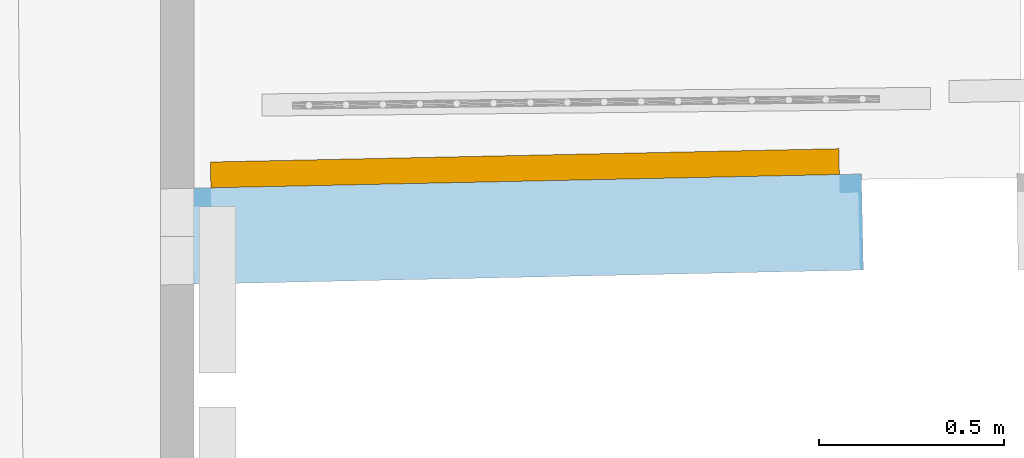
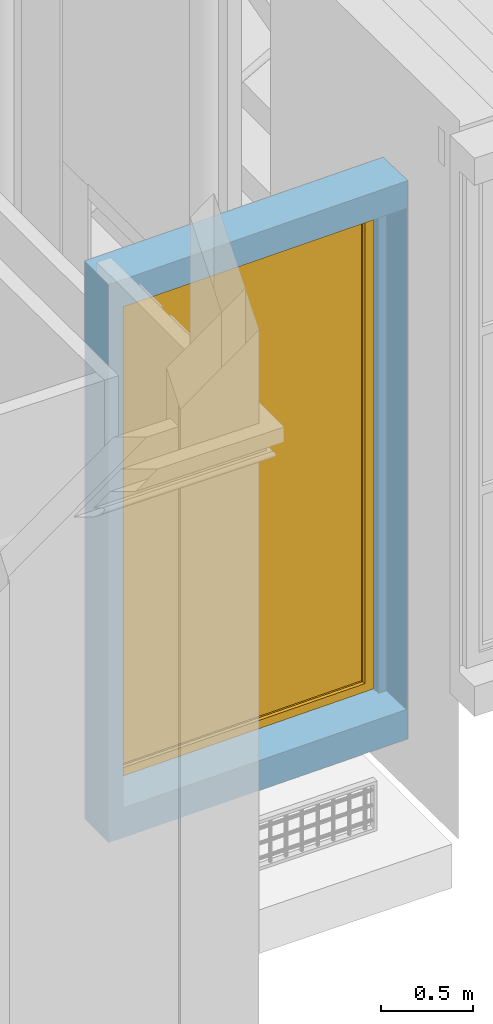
# One storey, part 55 of 97: 1 window, 1 opening, plus 1 element that does not belong to this part.
"""IFC2X3 building model written with IfcOpenShell, lengths in centimetres."""

from ifc_helpers import new_model, entity, si_unit, converted_unit, direction, frame, origin, origin_with_axes, place, context, subcontext, project, spatial, polyline, outline, extrude, faceted_brep, shape, source, transform, mapped, material, material_list, layer, layer_set, layer_usage, type_object, element, fill, save


model = new_model("IFC2X3")

# Units and contexts
model_context = context("Model", 3, precision=0.0001, world=origin(), true_north=direction((0.225632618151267, 0.974212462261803, 0.0)))
body_context = subcontext(model_context, "Body", "Model", "MODEL_VIEW")
footprint_context = subcontext(model_context, "FootPrint", "Model", "MODEL_VIEW")
profile_context = subcontext(model_context, "Profile", "Model", "MODEL_VIEW")
ifc_project = project(units=[si_unit("LENGTHUNIT", "METRE", prefix="CENTI"), si_unit("AREAUNIT", "SQUARE_METRE", prefix="CENTI"), si_unit("VOLUMEUNIT", "CUBIC_METRE", prefix="CENTI"), converted_unit("PLANEANGLEUNIT", "DEGREE", entity("IfcRatioMeasure", 0.0174532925), si_unit("PLANEANGLEUNIT", "RADIAN"), dimensions=[0, 0, 0, 0, 0, 0, 0])], contexts=[model_context])

# Site, building, storey
site_placement = place(None, origin_with_axes())
site = spatial("IfcSite", under=ifc_project, at=site_placement, Name="Default Site", CompositionType="ELEMENT")
building_placement = place(site_placement, origin_with_axes())
building = spatial("IfcBuilding", under=site, at=building_placement, Name="Default Building", CompositionType="ELEMENT")
storey_placement = place(building_placement, origin_with_axes())
storey = spatial("IfcBuildingStorey", under=building, at=storey_placement, Name="Rez-de-chaussée", CompositionType="ELEMENT", Elevation=0.0)

# Wall, opening, window
ifc_material_1 = material(Name="<aucun>")
ifc_layer = layer(ifc_material_1, 26.0)
ifc_layer_set = layer_set([ifc_layer], Name="default")
ifc_layer_usage = layer_usage(ifc_layer_set, "AXIS2", "POSITIVE", -13.0)
wall_type = type_object("IfcWallType", Name="default 260", PredefinedType="NOTDEFINED", material=ifc_layer_set)
wall_placement = place(storey_placement, frame((893.110482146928, -889.643335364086, 100.0), z_axis=(0.0, 0.0, 1.0), x_axis=(0.999775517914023, 0.0211875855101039, 0.0)))
wall = element("IfcWallStandardCase", 1, at=wall_placement, inside=storey, type_object=wall_type, material=ifc_layer_usage, Name="Enveloppe 531153", context=body_context, shape_type="SweptSolid", body=[
    extrude(outline(polyline([(-8.85924768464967, -12.9999999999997), (181.57111662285, -12.9999999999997), (181.571116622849, 13.0000000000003), (-8.3135869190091, 13.0000000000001), (-8.85924768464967, -12.9999999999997)])), frame((0.0, 0.0, -8.88178419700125e-14), z_axis=(0.0, 0.0, 1.0), x_axis=(1.0, 0.0, 0.0)), (0.0, 0.0, 1.0), 370.795358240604),
])
opening_placement = place(wall_placement, frame((0.321148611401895, 0.0, 19.7999999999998), z_axis=(0.0, 0.0, 1.0), x_axis=(-1.0, -1.196959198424e-15, 0.0)))
cartesian_point_1 = entity("IfcCartesianPoint", [0.0, -1.77635683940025e-13, 333.0])
cartesian_point_2 = entity("IfcCartesianPoint", [-180.275340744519, -13.0000000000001])
opening = element("IfcOpeningElement", 2, at=opening_placement, cuts=wall, Name="4294966539_11", ObjectType="Opening", shapes=[
    shape(body_context, "Body", "Brep", [faceted_brep([(-4.99996269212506, -32.9999921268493, 332.999987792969), (-175.275346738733, -32.9999919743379, 332.999987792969), (-175.275346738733, -32.9999919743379, -4.57763669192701e-06), (-4.99996269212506, -32.9999921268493, -4.57763669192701e-06), (4.3093168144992e-05, 33.0000416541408, -4.57763669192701e-06), (-180.2753357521, 33.000041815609, -4.57763669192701e-06), (-180.2753357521, 33.000041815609, 332.999987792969), (4.3093168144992e-05, 33.0000416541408, 332.999987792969), (-4.99996266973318, -8.00000513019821, -4.57763669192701e-06), (-4.99996266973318, -8.00000513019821, 332.999987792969), (-5.00003942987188, -8.00000513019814, 332.999987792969), (-5.00003942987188, -8.00000513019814, -4.57763669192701e-06), (-4.20305417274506e-05, -8.00000513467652, -4.57763669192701e-06), (-4.20305417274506e-05, -8.00000513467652, 332.999987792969), (-4.20305417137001e-05, -7.99998978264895, 332.999987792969), (-4.20305417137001e-05, -7.99998978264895, -4.57763669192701e-06), (-4.19938189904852e-05, 33.0000416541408, -4.57763669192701e-06), (-4.19938189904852e-05, 33.0000416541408, 332.999987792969), (-175.275346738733, -33.0000178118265, -4.57763669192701e-06), (-175.275328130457, -8.00003283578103, -4.57763669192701e-06), (-180.275323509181, -7.99995283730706, -4.57763669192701e-06), (-180.2753357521, 32.9999852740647, -4.57763669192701e-06), (-175.275346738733, -33.0000178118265, 332.999987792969), (-175.275346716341, -8.00003283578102, 332.999987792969), (-175.275346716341, -8.00003283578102, -4.57763669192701e-06), (-175.275328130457, -8.00003283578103, 332.999987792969), (-180.275323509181, -8.00003283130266, 332.999987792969), (-180.275323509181, -8.00003283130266, -4.57763669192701e-06), (-180.275323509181, -7.99995283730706, 332.999987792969), (-180.275323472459, 32.9999852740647, 332.999987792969), (-180.275323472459, 32.9999852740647, -4.57763669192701e-06), (-180.2753357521, 32.9999852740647, 332.999987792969)], [[[0, 1, 2, 3]], [[4, 5, 6, 7]], [[0, 3, 8, 9]], [[10, 11, 12, 13]], [[14, 15, 16, 17]], [[3, 18, 19, 20, 21, 4, 15, 11]], [[18, 22, 23, 24]], [[19, 25, 26, 27]], [[20, 28, 29, 30]], [[10, 14, 7, 31, 28, 25, 22, 0]]])]),
    shape(profile_context, "Profile", "GeometricCurveSet", [entity("IfcGeometricCurveSet", [entity("IfcPolyline", [cartesian_point_1, entity("IfcCartesianPoint", [0.0, -1.77635683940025e-13, 0.0]), entity("IfcCartesianPoint", [-180.275340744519, 0.0, 0.0]), entity("IfcCartesianPoint", [-180.275340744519, 0.0, 333.0]), cartesian_point_1])])]),
    shape(footprint_context, "FootPrint", "GeometricCurveSet", [entity("IfcGeometricCurveSet", [entity("IfcPolyline", [cartesian_point_2, entity("IfcCartesianPoint", [0.0, -13.0000000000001]), entity("IfcCartesianPoint", [0.0, 12.9999999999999]), entity("IfcCartesianPoint", [-180.275340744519, 12.9999999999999]), cartesian_point_2])])]),
])
ifc_material_2 = material(Name="Transparent")
ifc_material_3 = material(Name="Sapin blanc")
ifc_material_list = material_list([ifc_material_2, ifc_material_3])
window_style = type_object("IfcWindowStyle", Name="F[R] VV", ConstructionType="NOTDEFINED", OperationType="SINGLE_PANEL", ParameterTakesPrecedence=True, Sizeable=False, material=ifc_material_list)
shared_shape = source(origin_with_axes(), body_context, "Body", "Brep", [
    faceted_brep([(-79.6376705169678, 327.500009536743, -7.00000002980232), (-78.6376709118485, 326.500010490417, -6.00000042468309), (-78.6376709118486, 6.49999976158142, -6.00000042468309), (-79.6376705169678, 5.49999997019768, -7.00000002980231), (-78.6376714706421, 326.500010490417, -5.99999986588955), (-78.6376714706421, 326.500010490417, -0.999999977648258), (-78.6376714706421, 6.49999976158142, -0.999999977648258), (-78.6376714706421, 6.49999976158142, -5.99999986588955), (-79.6376709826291, 327.500009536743, -4.65661287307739e-07), (-79.6376709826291, 5.49999997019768, -4.65661295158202e-07), (-78.6376714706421, 6.49999976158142, -0.999999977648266), (-79.6376705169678, 327.500009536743, 0.0), (-85.1376712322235, 332.999992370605, 0.0), (-85.1376712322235, 0.0, 0.0), (-79.6376705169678, 5.49999997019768, 0.0), (-85.1376712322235, 332.999992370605, -7.00000002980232), (-85.1376712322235, 3.70148697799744e-31, -7.00000002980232), (-85.1376712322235, 3.70148697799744e-31, 0.0), (-79.6376705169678, 5.49999997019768, -7.00000002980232), (-85.1376712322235, 0.0, -7.00000002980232), (-78.6376714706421, 6.49999994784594, -6.00000005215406), (78.6376714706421, 6.49999994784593, -6.00000005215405), (79.6376705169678, 5.49999997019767, -7.00000002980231), (78.6376714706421, 6.4999997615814, -0.999999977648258), (78.6376714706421, 6.4999997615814, -5.99999986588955), (-79.6376705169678, 5.49999987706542, -9.31322574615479e-08), (79.6376705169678, 5.49999987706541, -9.31322692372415e-08), (78.6376714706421, 6.49999976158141, -0.99999997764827), (85.1376712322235, 0.0, 0.0), (79.6376705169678, 5.49999997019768, 0.0), (85.1376712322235, 0.0, -7.00000002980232), (79.6376705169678, 5.49999997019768, -7.00000002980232), (78.6376709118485, 6.49999976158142, -6.00000042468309), (78.6376709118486, 326.500010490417, -6.00000042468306), (79.6376705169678, 327.500009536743, -7.00000002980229), (78.6376714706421, 6.49999976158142, -5.99999986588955), (78.6376714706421, 6.49999976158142, -0.999999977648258), (78.6376714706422, 326.500010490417, -0.999999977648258), (78.6376714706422, 326.500010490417, -5.99999986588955), (79.6376709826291, 5.49999997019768, -4.65661287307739e-07), (79.6376709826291, 327.500009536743, -4.65661310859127e-07), (78.6376714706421, 326.500010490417, -0.999999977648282), (85.1376712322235, 332.999992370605, 0.0), (79.6376705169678, 327.500009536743, 0.0), (85.1376712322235, 332.999992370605, -7.00000002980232), (79.6376705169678, 327.500009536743, -7.00000002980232), (78.6376714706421, 326.500009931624, -6.00000042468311), (-78.6376714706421, 326.500009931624, -6.00000042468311), (78.6376714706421, 326.500010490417, -5.99999986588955), (78.6376714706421, 326.500010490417, -0.999999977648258), (79.6376705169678, 327.500010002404, -4.65661295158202e-07), (-79.6376705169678, 327.500010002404, -4.65661295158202e-07)], [[[0, 1, 2, 3]], [[4, 5, 6, 7]], [[5, 8, 9, 10]], [[11, 12, 13, 14]], [[12, 15, 16, 17]], [[15, 0, 18, 19]], [[18, 20, 21, 22]], [[7, 6, 23, 24]], [[6, 25, 26, 27]], [[14, 13, 28, 29]], [[13, 19, 30, 28]], [[19, 18, 31, 30]], [[31, 32, 33, 34]], [[35, 36, 37, 38]], [[36, 39, 40, 41]], [[29, 28, 42, 43]], [[28, 30, 44, 42]], [[30, 31, 45, 44]], [[45, 46, 47, 0]], [[48, 49, 5, 4]], [[49, 50, 51, 5]], [[43, 42, 12, 11]], [[42, 44, 15, 12]], [[44, 45, 0, 15]]]),
    faceted_brep([(78.6376714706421, 326.500010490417, -4.89999987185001), (78.6376714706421, 6.49999976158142, -4.89999987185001), (-78.6376714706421, 6.49999976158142, -4.89999987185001), (-78.6376714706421, 326.500010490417, -4.89999987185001), (-78.6376714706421, 326.500010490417, -2.09999997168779), (-78.6376714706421, 6.49999976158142, -2.09999997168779), (78.6376714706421, 6.49999976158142, -2.09999997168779), (78.6376714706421, 326.500010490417, -2.09999997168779)], [[[0, 1, 2, 3]], [[4, 5, 6, 7]], [[3, 2, 5, 4]], [[2, 1, 6, 5]], [[1, 0, 7, 6]], [[0, 3, 4, 7]]]),
])
window_placement = place(opening_placement, frame((-175.275340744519, -13.0000000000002, 0.0), z_axis=(0.0, 0.0, 1.0), x_axis=(1.0, 0.0, 0.0)))
window = element("IfcWindow", 3, at=window_placement, inside=storey, type_object=window_style, material=ifc_material_list, Name="Fenêtre 531667", OverallHeight=333.0, OverallWidth=170.275340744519, context=body_context, shape_type="MappedRepresentation", body=[
    mapped(shared_shape, transform((85.1376703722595, 1.77635683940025e-13, -2.22044604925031e-14), x_axis=(-1.0, 0.0, 0.0), y_axis=(0.0, 0.0, 1.0), z_axis=(0.0, 1.0, 0.0), scale=1.0, scale2=1.0, scale3=1.0, uniform=False)),
])
fill(opening, window)

save(model, "model.ifc")
